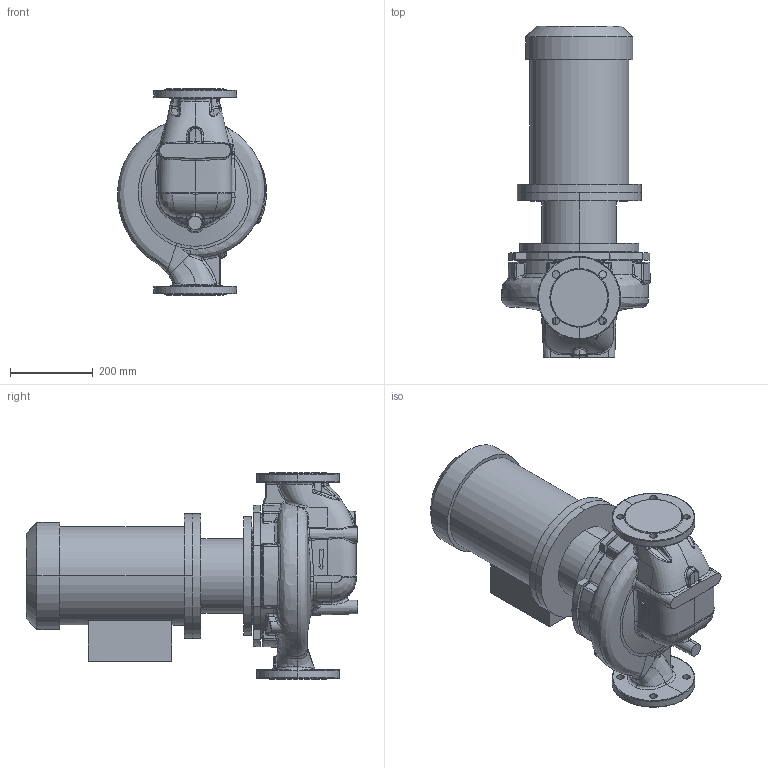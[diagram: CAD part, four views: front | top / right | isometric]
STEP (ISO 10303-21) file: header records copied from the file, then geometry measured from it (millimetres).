
FILE_DESCRIPTION (( 'STEP AP214' ), '1' );
FILE_NAME ('KRL 80-250-4-5,5.STEP', '2026-04-06T11:38:38', ( '' ), ( '' ), 'SwSTEP 2.0', 'SolidWorks 2016', '' );
FILE_SCHEMA (( 'AUTOMOTIVE_DESIGN' ));
Length unit declared in the file: millimetre
Products named in the file (1): KRL 80-250-4-5,5
Bounding box: 359.37 x 802.8 x 500 mm (x, y, z)
Volume: 46370481.8 mm3; surface area: 1652857.5 mm2
Topology: 10 solids, 10 shells, 607 faces, 1511 edges, 924 vertices
Faces by surface type: bspline 314, plane 114, cylinder 107, cone 43, torus 16, sphere 13
Entity records: 60266 total; most frequent: CARTESIAN_POINT 41924, ORIENTED_EDGE 2988, DIRECTION 1626, EDGE_CURVE 1494, VERTEX_POINT 924, B_SPLINE_CURVE_WITH_KNOTS 698, AXIS2_PLACEMENT_3D 688, EDGE_LOOP 642
